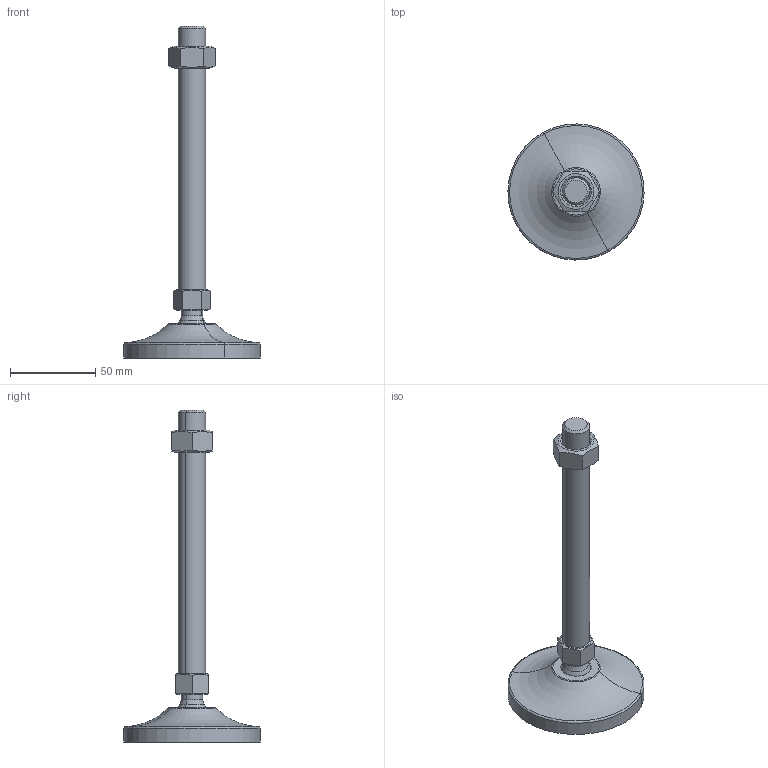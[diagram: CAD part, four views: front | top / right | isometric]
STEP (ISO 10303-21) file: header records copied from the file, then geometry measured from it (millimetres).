
FILE_DESCRIPTION(('CATIA V5 STEP Exchange'),'2;1');
FILE_NAME('C:\Users\ALI OZGUN\Desktop\alhan\saplama2\560801621.stp','2017-09-21T10:34:05+00:00',('none'),('none'),'CATIA Version 5 Release 21 GA (IN-10)','CATIA V5 STEP AP203','none');
FILE_SCHEMA(('CONFIG_CONTROL_DESIGN'));
Length unit declared in the file: millimetre
Products named in the file (1): 560801621
Bounding box: 79.98 x 79.98 x 195 mm (x, y, z)
Volume: 83080.1 mm3; surface area: 26196.7 mm2
Topology: 3 solids, 3 shells, 60 faces, 136 edges, 83 vertices
Faces by surface type: plane 20, cone 16, cylinder 14, torus 6, revolution 2, sphere 2
Entity records: 1852 total; most frequent: CARTESIAN_POINT 610, ORIENTED_EDGE 268, DIRECTION 186, EDGE_CURVE 134, AXIS2_PLACEMENT_3D 100, VERTEX_POINT 83, EDGE_LOOP 67, ADVANCED_FACE 60
